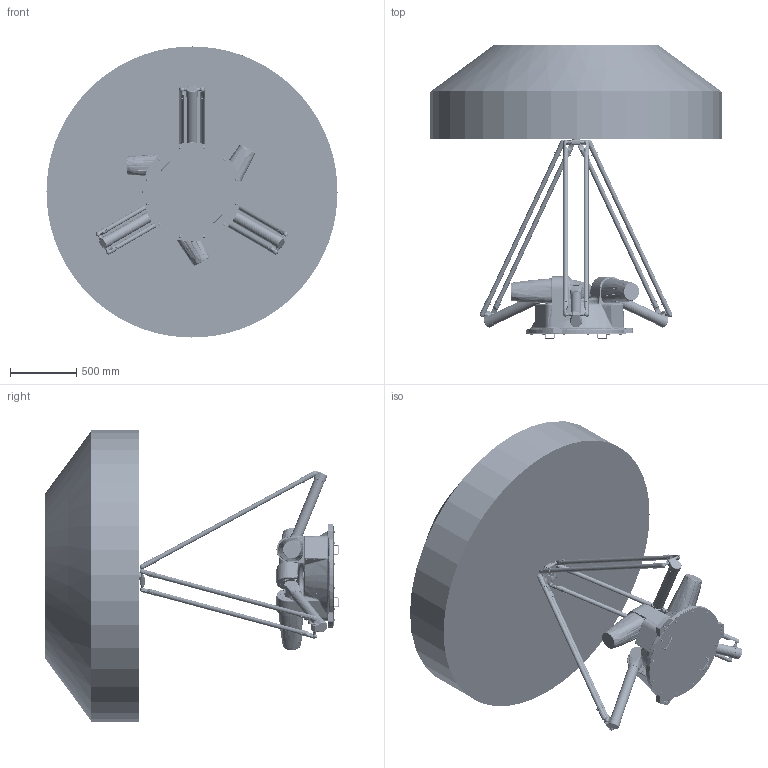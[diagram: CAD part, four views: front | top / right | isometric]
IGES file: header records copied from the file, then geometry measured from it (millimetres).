
Start section: SolidWorks IGES file using analytic representation for surfaces
Bounding box: 2199.97 x 2219 x 2199.97 mm (x, y, z)
Surface area: 16825358.4 mm2 (no closed solid volume)
Topology: 0 solids, 0 shells, 6270 faces, 89955 edges, 89660 vertices
Faces by surface type: bspline 3873, revolution 2397
